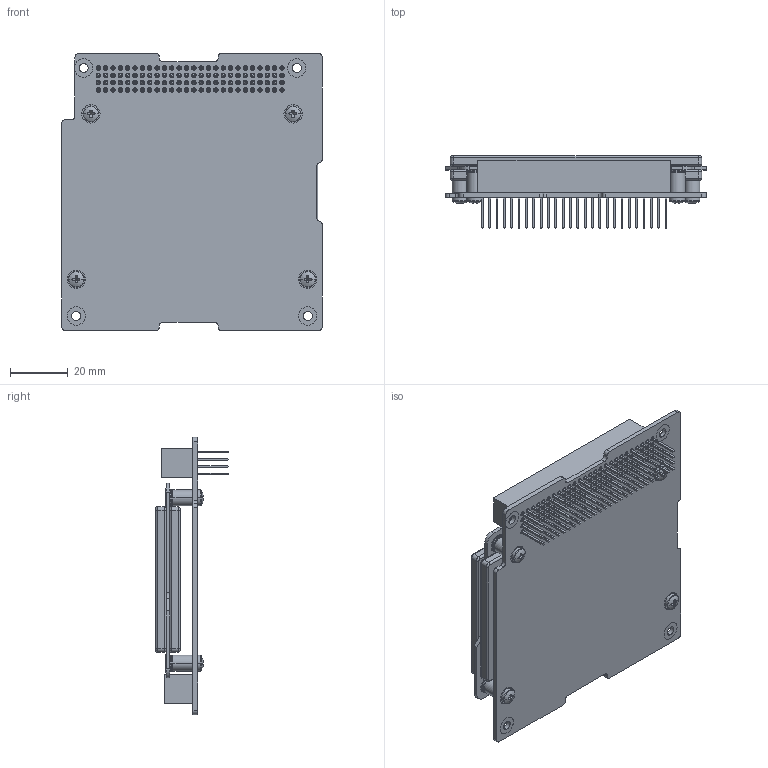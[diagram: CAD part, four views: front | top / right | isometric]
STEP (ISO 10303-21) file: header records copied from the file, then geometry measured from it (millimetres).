
FILE_DESCRIPTION (( 'STEP AP214' ), '1' );
FILE_NAME ('711-00338 Linear EPS Rev D.STEP', '2016-12-21T00:11:53', ( '' ), ( '' ), 'SwSTEP 2.0', 'SolidWorks 2014', '' );
FILE_SCHEMA (( 'AUTOMOTIVE_DESIGN' ));
Length unit declared in the file: inch
Products named in the file (2): 711-00338 Linear EPS Rev D
Bounding box: 90.17 x 25.07 x 95.89 mm (x, y, z)
Volume: 62156 mm3; surface area: 43818.9 mm2
Topology: 1 solids, 33 shells, 3330 faces, 7544 edges, 4656 vertices
Faces by surface type: plane 2380, cylinder 726, cone 184, torus 24, bspline 8, sphere 8
Entity records: 95606 total; most frequent: DIRECTION 15992, CARTESIAN_POINT 15868, ORIENTED_EDGE 15088, EDGE_CURVE 7544, LINE 5728, VECTOR 5728, AXIS2_PLACEMENT_3D 5132, VERTEX_POINT 4656
